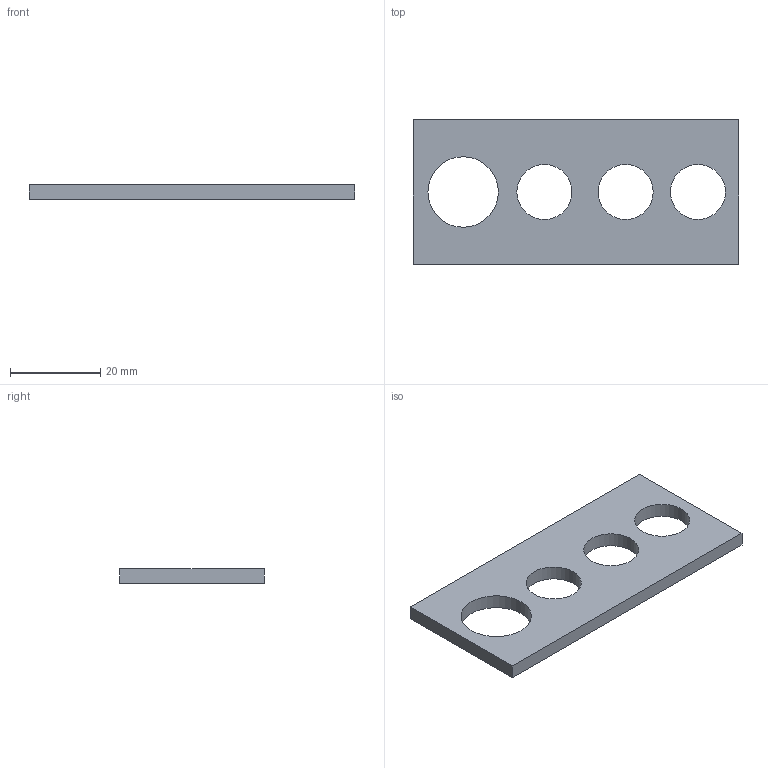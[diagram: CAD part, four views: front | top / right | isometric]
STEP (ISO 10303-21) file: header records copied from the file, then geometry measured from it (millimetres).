
FILE_DESCRIPTION(('Open CASCADE Model'),'2;1');
FILE_NAME('Open CASCADE Shape Model','2026-07-27T17:33:14',('Author'),( 'Open CASCADE'),'Open CASCADE STEP processor 7.9','Open CASCADE 7.9' ,'Unknown');
FILE_SCHEMA(('AUTOMOTIVE_DESIGN { 1 0 10303 214 1 1 1 1 }'));
Length unit declared in the file: millimetre
Products named in the file (1): Open CASCADE STEP translator 7.9 3
Bounding box: 72 x 32 x 3.2 mm (x, y, z)
Volume: 5638.9 mm3; surface area: 4714.7 mm2
Topology: 1 solids, 1 shells, 10 faces, 24 edges, 16 vertices
Faces by surface type: plane 6, cylinder 4
Full cylindrical faces by diameter (mm): 12.2 x3, 15.6 x1
Entity records: 658 total; most frequent: CARTESIAN_POINT 147, DIRECTION 94, LINE 56, VECTOR 56, ORIENTED_EDGE 48, PCURVE 48, DEFINITIONAL_REPRESENTATION 48, EDGE_CURVE 24
